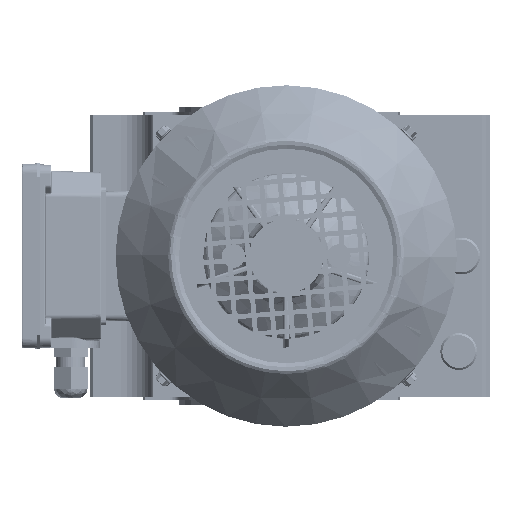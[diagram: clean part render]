
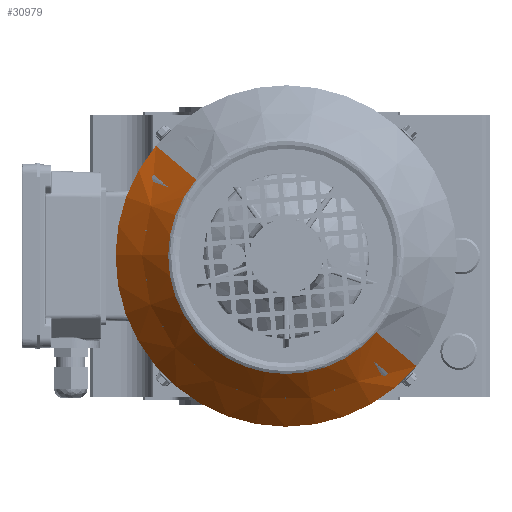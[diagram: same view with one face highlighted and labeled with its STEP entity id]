
A CAD part, left-side view. The second image highlights one B-rep face of the part: STEP entity #30979.
In plain terms, the highlighted conical face has half-angle 42 degrees and reference radius 87.55 mm.
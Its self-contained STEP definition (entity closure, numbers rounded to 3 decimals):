
#11030 = CARTESIAN_POINT ( 'NONE',  ( 51.607, 0., 0. ) ) ;
#11033 = DIRECTION ( 'NONE',  ( -1., 0., 0. ) ) ;
#11134 = DIRECTION ( 'NONE',  ( 0., -1., 0. ) ) ;
#11149 = DIRECTION ( 'NONE',  ( 0., -1., 0. ) ) ;
#11153 = DIRECTION ( 'NONE',  ( -1., 0., 0. ) ) ;
#11155 = CARTESIAN_POINT ( 'NONE',  ( 51.607, 0., 0. ) ) ;
#12889 = CARTESIAN_POINT ( 'NONE',  ( 51.607, 0., -60.531 ) ) ;
#26473 = DIRECTION ( 'NONE',  ( -1., 0., 0. ) ) ;
#26480 = CARTESIAN_POINT ( 'NONE',  ( 21.6, 0., 0. ) ) ;
#26545 = DIRECTION ( 'NONE',  ( 0., -1., 0. ) ) ;
#28754 = CARTESIAN_POINT ( 'NONE',  ( 21.6, 87.55, 0. ) ) ;
#28824 = DIRECTION ( 'NONE',  ( -0.743, 0.669, 0. ) ) ;
#28846 = DIRECTION ( 'NONE',  ( -0.743, -0.669, 0. ) ) ;
#28849 = CARTESIAN_POINT ( 'NONE',  ( 21.6, -87.55, 0. ) ) ;
#30979 = ADVANCED_FACE ( 'NONE', ( #142364 ), #142341, .T. ) ;
#45144 = VECTOR ( 'NONE', #28824, 1000. ) ;
#45270 = LINE ( 'NONE', #28754, #45144 ) ;
#45386 = VECTOR ( 'NONE', #28846, 1000. ) ;
#45448 = CIRCLE ( 'NONE', #166252, 87.55 ) ;
#45488 = LINE ( 'NONE', #28849, #45386 ) ;
#53867 = DIRECTION ( 'NONE',  ( -1., 0., 0. ) ) ;
#54003 = DIRECTION ( 'NONE',  ( 0., 0., 1. ) ) ;
#54026 = CARTESIAN_POINT ( 'NONE',  ( 21.6, 0., 0. ) ) ;
#60834 = CARTESIAN_POINT ( 'NONE',  ( 21.6, 87.55, 0. ) ) ;
#61050 = CARTESIAN_POINT ( 'NONE',  ( 21.6, 0., -87.55 ) ) ;
#61080 = CARTESIAN_POINT ( 'NONE',  ( 51.607, -60.531, 0. ) ) ;
#61171 = CARTESIAN_POINT ( 'NONE',  ( 51.607, 60.531, 0. ) ) ;
#61275 = CARTESIAN_POINT ( 'NONE',  ( 21.6, -87.55, 0. ) ) ;
#88107 = AXIS2_PLACEMENT_3D ( 'NONE', #26480, #26473, #26545 ) ;
#88133 = EDGE_LOOP ( 'NONE', ( #194383, #194327, #194456, #194290, #194352, #194424 ) ) ;
#109043 = EDGE_CURVE ( 'NONE', #143853, #143802, #45270, .T. ) ;
#109086 = EDGE_CURVE ( 'NONE', #143858, #143967, #45488, .T. ) ;
#109114 = EDGE_CURVE ( 'NONE', #143802, #143843, #45448, .T. ) ;
#113811 = CARTESIAN_POINT ( 'NONE',  ( 21.6, 0., 0. ) ) ;
#113814 = DIRECTION ( 'NONE',  ( -1., 0., 0. ) ) ;
#113820 = DIRECTION ( 'NONE',  ( 0., 0., 1. ) ) ;
#119861 = CIRCLE ( 'NONE', #206373, 60.531 ) ;
#119880 = CIRCLE ( 'NONE', #206330, 60.531 ) ;
#120195 = CIRCLE ( 'NONE', #206487, 87.55 ) ;
#142341 = CONICAL_SURFACE ( 'NONE', #88107, 87.55, 0.733 ) ;
#142364 = FACE_OUTER_BOUND ( 'NONE', #88133, .T. ) ;
#143802 = VERTEX_POINT ( 'NONE', #60834 ) ;
#143843 = VERTEX_POINT ( 'NONE', #61050 ) ;
#143853 = VERTEX_POINT ( 'NONE', #61171 ) ;
#143858 = VERTEX_POINT ( 'NONE', #61080 ) ;
#143967 = VERTEX_POINT ( 'NONE', #61275 ) ;
#166252 = AXIS2_PLACEMENT_3D ( 'NONE', #54026, #53867, #54003 ) ;
#194290 = ORIENTED_EDGE ( 'NONE', *, *, #109086, .T. ) ;
#194327 = ORIENTED_EDGE ( 'NONE', *, *, #205539, .T. ) ;
#194352 = ORIENTED_EDGE ( 'NONE', *, *, #205633, .F. ) ;
#194383 = ORIENTED_EDGE ( 'NONE', *, *, #109043, .F. ) ;
#194424 = ORIENTED_EDGE ( 'NONE', *, *, #109114, .F. ) ;
#194456 = ORIENTED_EDGE ( 'NONE', *, *, #205536, .T. ) ;
#194709 = VERTEX_POINT ( 'NONE', #12889 ) ;
#205536 = EDGE_CURVE ( 'NONE', #194709, #143858, #119861, .T. ) ;
#205539 = EDGE_CURVE ( 'NONE', #143853, #194709, #119880, .T. ) ;
#205633 = EDGE_CURVE ( 'NONE', #143843, #143967, #120195, .T. ) ;
#206330 = AXIS2_PLACEMENT_3D ( 'NONE', #11155, #11153, #11149 ) ;
#206373 = AXIS2_PLACEMENT_3D ( 'NONE', #11030, #11033, #11134 ) ;
#206487 = AXIS2_PLACEMENT_3D ( 'NONE', #113811, #113814, #113820 ) ;
